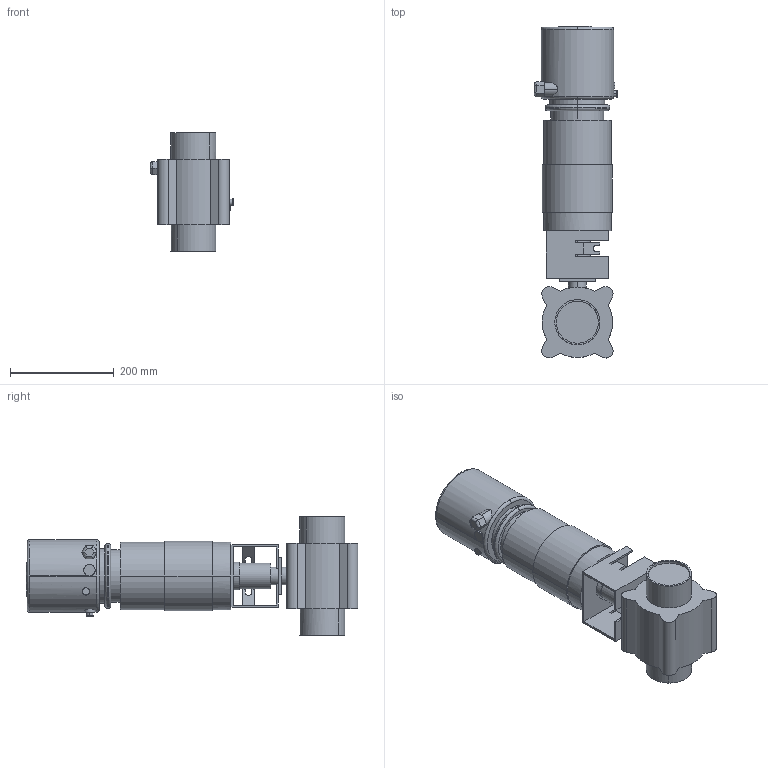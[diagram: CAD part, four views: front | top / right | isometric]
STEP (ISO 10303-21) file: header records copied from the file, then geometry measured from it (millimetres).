
FILE_DESCRIPTION(('Creo Elements/Direct Modeling STEP Export'),'2;1');
FILE_NAME('BLV1-80-NC-12S-CU4.stp','2019-05-09T14:36:11',(''),(''),'Creo Elements/Direct Modeling STEP processor for AP214 (Solid Model)','Creo Elements/Direct Modeling 19.0F 14-Feb-2017 (C) Parametric Technology GmbH','');
FILE_SCHEMA(('AUTOMOTIVE_DESIGN { 1 0 10303 214 1 1 1 1 }'));
Length unit declared in the file: millimetre
Products named in the file (2): BLV1-80-NC-12S-CU4
Assembly tree (1 placements, depth 2):
  BLV1-80-NC-12S-CU4
    BLV1-80-NC-12S-CU4
Bounding box: 161.4 x 640.49 x 229 mm (x, y, z)
Volume: 8568096.4 mm3; surface area: 437456.4 mm2
Topology: 1 solids, 2 shells, 249 faces, 639 edges, 418 vertices
Faces by surface type: plane 116, cylinder 90, extrusion 33, torus 10
Entity records: 10790 total; most frequent: CARTESIAN_POINT 5138, ORIENTED_EDGE 1280, DIRECTION 987, EDGE_CURVE 640, VERTEX_POINT 418, VECTOR 341, AXIS2_PLACEMENT_3D 323, LINE 308
